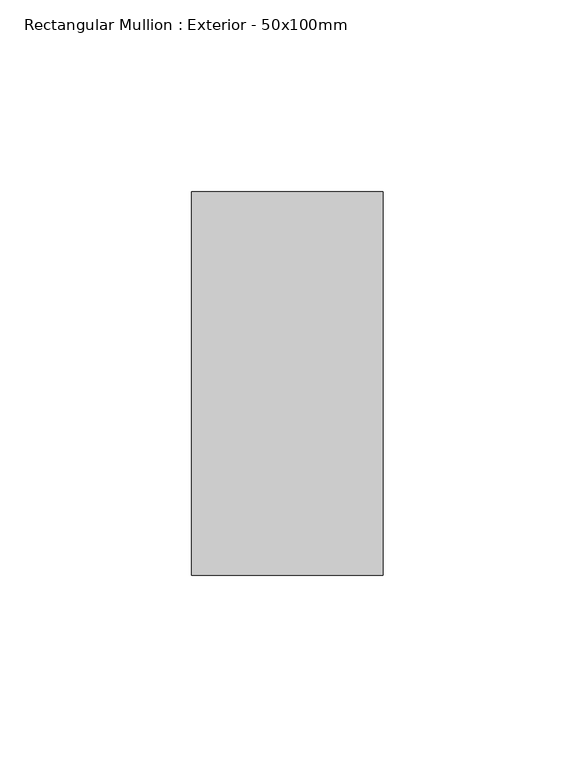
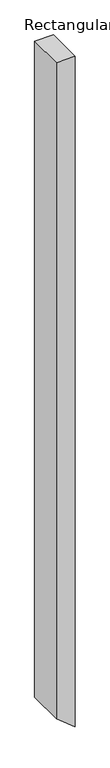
"""IFC4 building model written with IfcOpenShell, lengths in millimetres: member geometry, Rectangular Mullion : Exterior - 50x100mm."""

from ifc_helpers import new_model, si_unit, frame, origin, place, context, project, spatial, polyline, outline, extrude, source, transform, mapped, element, save


def rectangular_mullion_exterior_50x100mm_bd403bb5(model_context):
    return source(origin(), model_context, "Body", "SweptSolid", [
        extrude(outline(polyline([(0.0, 0.0), (0.0, -50.0), (-1853.5962333, -50.0), (-1894.8130526, 0.0), (0.0, 0.0)])), frame((0.0, 0.0, 0.0), z_axis=(0.0, 1.0, 0.0), x_axis=(0.0, 0.0, 1.0)), (0.0, 0.0, 1.0), 100.0),
    ])


if __name__ == "__main__":
    model = new_model("IFC4")
    model_context = context("Model", 3, world=origin())
    ifc_project = project(units=[si_unit("LENGTHUNIT", "METRE", prefix="MILLI")], contexts=[model_context])
    site = spatial("IfcSite", under=ifc_project)
    building = spatial("IfcBuilding", under=site)
    placement = place(None, origin())
    rectangular_mullion_exterior_50x100mm_shape = rectangular_mullion_exterior_50x100mm_bd403bb5(model_context)
    element("IfcMember", 1, ObjectType="Rectangular Mullion : Exterior - 50x100mm", at=placement, inside=building, context=model_context, shape_type="MappedRepresentation", body=[
        mapped(rectangular_mullion_exterior_50x100mm_shape, transform((0.0, 0.0, 0.0), x_axis=(1.0, 0.0, 0.0), y_axis=(0.0, 1.0, 0.0), z_axis=(0.0, 0.0, 1.0))),
    ])
    save(model, "model.ifc")
